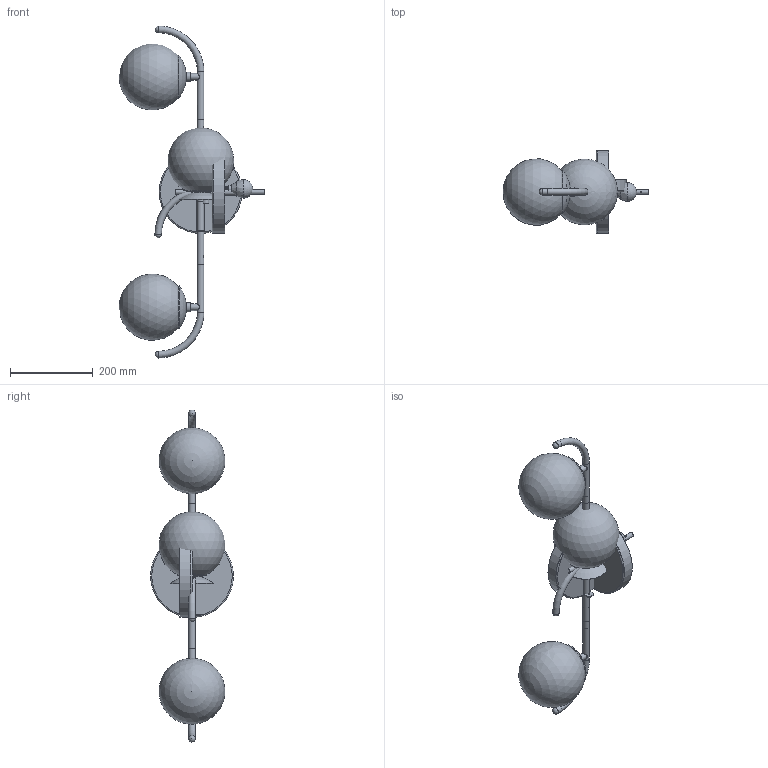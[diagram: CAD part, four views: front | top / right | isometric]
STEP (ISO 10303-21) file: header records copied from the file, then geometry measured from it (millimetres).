
FILE_DESCRIPTION( ( 'Unknown' ), '1' );
FILE_NAME( '//MMS001/Pubblica/PROGETTI MM LAMPADARI/7434 SERIE TUMBLER/ELECTA - LO SCALZO/OLD/PRJ 192_2019 lo scalzo/Applique/Applique.stp', 'Unknown', ( 'Unknown' ), ( 'Unknown' ), 'XStep 1.0', 'Unknown', ' ' );
FILE_SCHEMA( ( 'automotive_design' ) );
Length unit declared in the file: millimetre
Products named in the file (17): Assem1; Assem2; Assem3; Finale OTTONE piccolo; Tubo raccordo OTTONE_inferiore; Raccordo filettato ; Lampadina E14 Vtac; Tubo ; Tubo raccordo rosone; Rosone; Particolare; Piatino_E14; Sfera ﾘ160; Disco fissaggio_sfera160; Staffa; Rondella sotto raccordo
Bounding box: 351.5 x 200 x 801 mm (x, y, z)
Volume: 1323873.3 mm3; surface area: 970075.5 mm2
Topology: 42 solids, 42 shells, 520 faces, 1212 edges, 763 vertices
Faces by surface type: cylinder 190, plane 159, torus 113, bspline 22, sphere 20, cone 16
Full cylindrical faces by diameter (mm): 2.459 x4, 3.242 x10, 4.5 x4, 5.5 x4, 8.917 x9, 9 x4, 10.25 x8, 12 x24, 13.044 x24, 16 x12, 16.211 x4, 18 x9, 18.985 x4, 22 x3, 30 x3, 197 x2, 200 x2
Entity records: 7792 total; most frequent: CARTESIAN_POINT 3860, DIRECTION 786, ORIENTED_EDGE 554, AXIS2_PLACEMENT_3D 341, EDGE_LOOP 314, EDGE_CURVE 277, FACE_OUTER_BOUND 256, VERTEX_POINT 225
